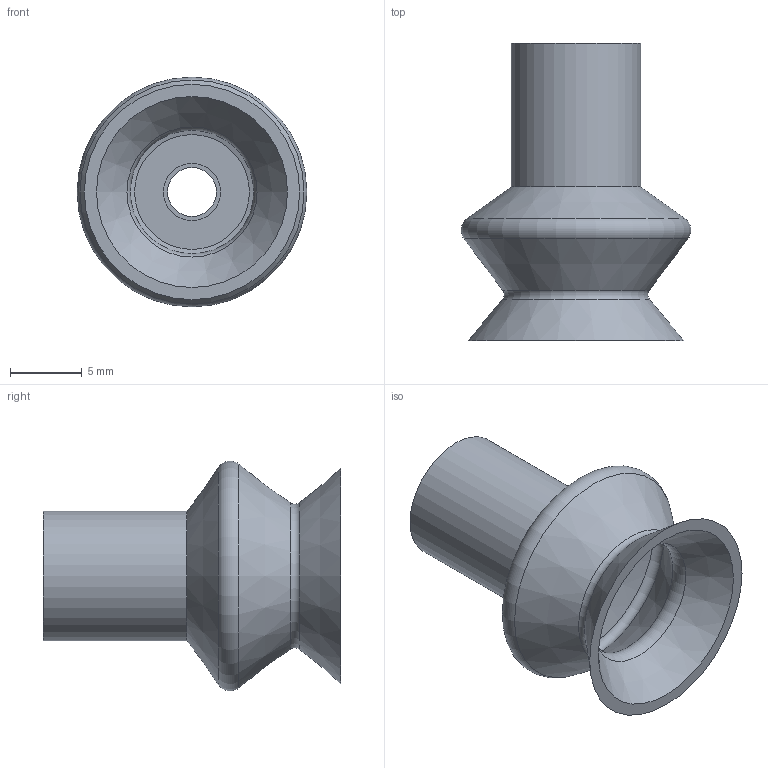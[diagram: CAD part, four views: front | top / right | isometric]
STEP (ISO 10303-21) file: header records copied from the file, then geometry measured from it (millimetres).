
FILE_DESCRIPTION (( 'STEP AP214' ), '1' );
FILE_NAME ('15B.015.008.STEP', '2025-12-29T15:22:22', ( '' ), ( '' ), 'SwSTEP 2.0', 'SolidWorks 2025', '' );
FILE_SCHEMA (( 'AUTOMOTIVE_DESIGN' ));
Length unit declared in the file: millimetre
Products named in the file (1): 15B.015.008
Bounding box: 16 x 20.7 x 16 mm (x, y, z)
Volume: 1046.9 mm3; surface area: 1577.3 mm2
Topology: 1 solids, 1 shells, 17 faces, 30 edges, 17 vertices
Faces by surface type: cone 6, plane 4, torus 4, cylinder 3
Full cylindrical faces by diameter (mm): 3.4 x1, 4 x1, 9 x1
Entity records: 371 total; most frequent: DIRECTION 70, CARTESIAN_POINT 52, AXIS2_PLACEMENT_3D 35, EDGE_LOOP 34, ORIENTED_EDGE 34, FACE_OUTER_BOUND 24, EDGE_CURVE 17, CIRCLE 17
